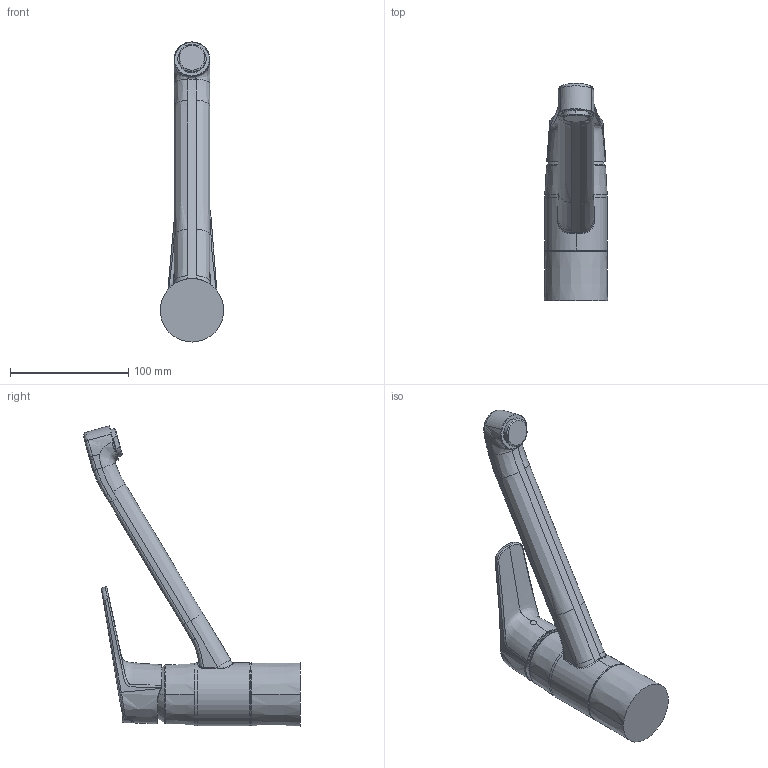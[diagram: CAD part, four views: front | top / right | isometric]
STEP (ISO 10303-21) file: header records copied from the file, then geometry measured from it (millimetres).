
FILE_DESCRIPTION (( 'STEP AP203' ), '1' );
FILE_NAME ('1820FG(2018).STEP', '2019-06-03T05:20:22', ( '' ), ( '' ), 'SwSTEP 2.0', 'SolidWorks 2016', '' );
FILE_SCHEMA (( 'CONFIG_CONTROL_DESIGN' ));
Length unit declared in the file: millimetre
Products named in the file (1): 1820FG(2018)
Bounding box: 53.73 x 183.47 x 253.97 mm (x, y, z)
Volume: 464611 mm3; surface area: 54648.6 mm2
Topology: 1 solids, 1 shells, 174 faces, 447 edges, 279 vertices
Faces by surface type: bspline 124, cylinder 23, plane 12, torus 8, cone 6, sphere 1
Entity records: 25751 total; most frequent: CARTESIAN_POINT 22554, ORIENTED_EDGE 894, EDGE_CURVE 447, B_SPLINE_CURVE_WITH_KNOTS 311, DIRECTION 298, VERTEX_POINT 279, EDGE_LOOP 178, ADVANCED_FACE 174
